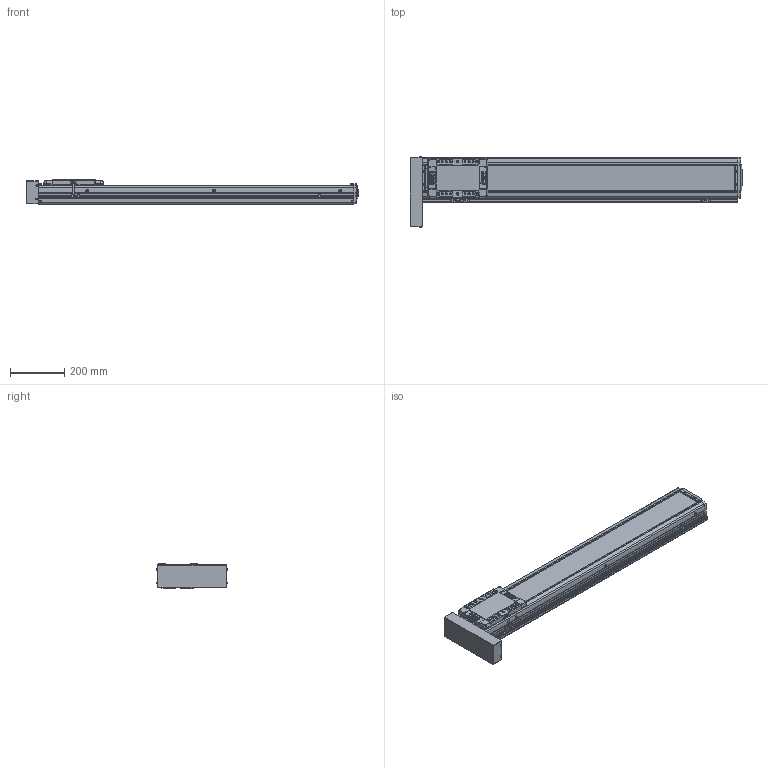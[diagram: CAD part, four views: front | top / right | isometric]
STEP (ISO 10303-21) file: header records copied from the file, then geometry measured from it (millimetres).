
FILE_DESCRIPTION(('STEP AP214'),'1');
FILE_NAME('Z:/Web/3D/SAN150/2013.04 (STP.)/SAN150ㅁㅁ-900PR+3SR.stp','2013-05-07T10:48:16',(' '),(' '),'Spatial InterOp 3D',' ',' ');
FILE_SCHEMA(('automotive_design'));
Length unit declared in the file: millimetre
Products named in the file (60): BHCS M3.0 x 6.0; P; SLBL-SAN150; SLCV-SAN150; FHCS M4.0 x 8.0; BHCS M4.0 x 10.0; SFX-SAN150; RRCV-SAN150; FRBL-SAN150; Spacer; RN15; FRCV-SAN150; Screw 20; BASE-SAN150-000L ; SUS COVER; 스크루 : Round - M5.0 x 6.0; M3.0 x 6.0; SRL-16x17-360L; SGD-SAN150; EE-SX674; SBK-SX674-352; 스크루 : Round - M3.0 x 6.0
Bounding box: 1220 x 260.73 x 90 mm (x, y, z)
Volume: 7439790.2 mm3; surface area: 1398878.8 mm2
Topology: 60 solids, 60 shells, 2760 faces, 7093 edges, 4546 vertices
Faces by surface type: plane 1422, cylinder 911, cone 310, sphere 84, bspline 21, torus 12
Entity records: 109384 total; most frequent: CARTESIAN_POINT 17549, DIRECTION 15028, ORIENTED_EDGE 13922, EDGE_CURVE 6961, AXIS2_PLACEMENT_3D 5372, VERTEX_POINT 4546, LINE 4284, VECTOR 4284
